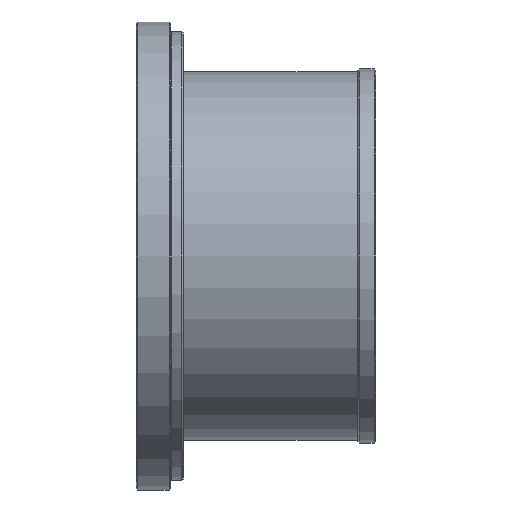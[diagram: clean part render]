
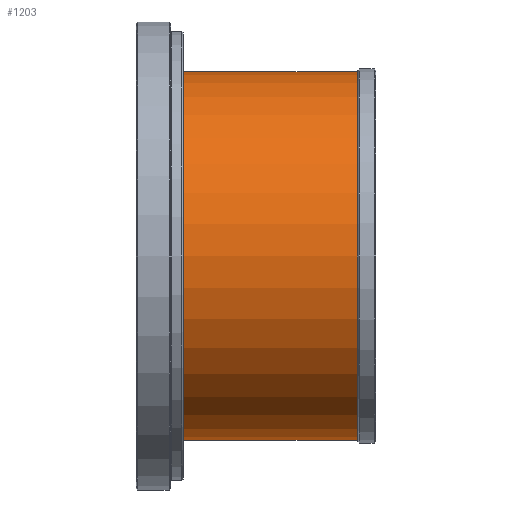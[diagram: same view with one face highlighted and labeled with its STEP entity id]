
A CAD part, front view. The second image highlights one B-rep face of the part: STEP entity #1203.
In plain terms, the highlighted cylindrical face has radius 59 mm (diameter 118 mm), a partial arc.
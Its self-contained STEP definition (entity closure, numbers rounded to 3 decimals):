
#144=AXIS2_PLACEMENT_3D('Circle Axis2P3D',#142,#143,$) ;
#1030=AXIS2_PLACEMENT_3D('Circle Axis2P3D',#1028,#1029,$) ;
#1178=AXIS2_PLACEMENT_3D('Cylinder Axis2P3D',#1175,#1176,#1177) ;
#106=CARTESIAN_POINT('Vertex',(15.2,0.,59.)) ;
#108=CARTESIAN_POINT('Vertex',(15.2,0.,-59.)) ;
#142=CARTESIAN_POINT('Axis2P3D Location',(15.2,0.,0.)) ;
#996=CARTESIAN_POINT('Vertex',(70.8,0.,-59.)) ;
#1003=CARTESIAN_POINT('Vertex',(70.8,0.,59.)) ;
#1028=CARTESIAN_POINT('Axis2P3D Location',(70.8,0.,0.)) ;
#1175=CARTESIAN_POINT('Axis2P3D Location',(38.375,0.,0.)) ;
#1180=CARTESIAN_POINT('Line Origine',(43.,0.,-59.)) ;
#1185=CARTESIAN_POINT('Line Origine',(43.,0.,59.)) ;
#143=DIRECTION('Axis2P3D Direction',(1.,0.,-0.)) ;
#1029=DIRECTION('Axis2P3D Direction',(1.,0.,-0.)) ;
#1176=DIRECTION('Axis2P3D Direction',(1.,0.,0.)) ;
#1177=DIRECTION('Axis2P3D XDirection',(0.,0.,1.)) ;
#1181=DIRECTION('Vector Direction',(1.,0.,0.)) ;
#1186=DIRECTION('Vector Direction',(1.,0.,0.)) ;
#1182=VECTOR('Line Direction',#1181,1.) ;
#1187=VECTOR('Line Direction',#1186,1.) ;
#1198=ORIENTED_EDGE('',*,*,#1189,.F.) ;
#1199=ORIENTED_EDGE('',*,*,#146,.F.) ;
#1200=ORIENTED_EDGE('',*,*,#1184,.T.) ;
#1201=ORIENTED_EDGE('',*,*,#1032,.T.) ;
#1203=ADVANCED_FACE('Corps principal',(#1202),#1179,.T.) ;
#145=CIRCLE('generated circle',#144,59.) ;
#1031=CIRCLE('generated circle',#1030,59.) ;
#1179=CYLINDRICAL_SURFACE('generated cylinder',#1178,59.) ;
#146=EDGE_CURVE('',#109,#107,#145,.F.) ;
#1032=EDGE_CURVE('',#997,#1004,#1031,.F.) ;
#1184=EDGE_CURVE('',#109,#997,#1183,.T.) ;
#1189=EDGE_CURVE('',#107,#1004,#1188,.T.) ;
#1197=EDGE_LOOP('',(#1198,#1199,#1200,#1201)) ;
#1202=FACE_OUTER_BOUND('',#1197,.T.) ;
#1183=LINE('Line',#1180,#1182) ;
#1188=LINE('Line',#1185,#1187) ;
#107=VERTEX_POINT('',#106) ;
#109=VERTEX_POINT('',#108) ;
#997=VERTEX_POINT('',#996) ;
#1004=VERTEX_POINT('',#1003) ;
